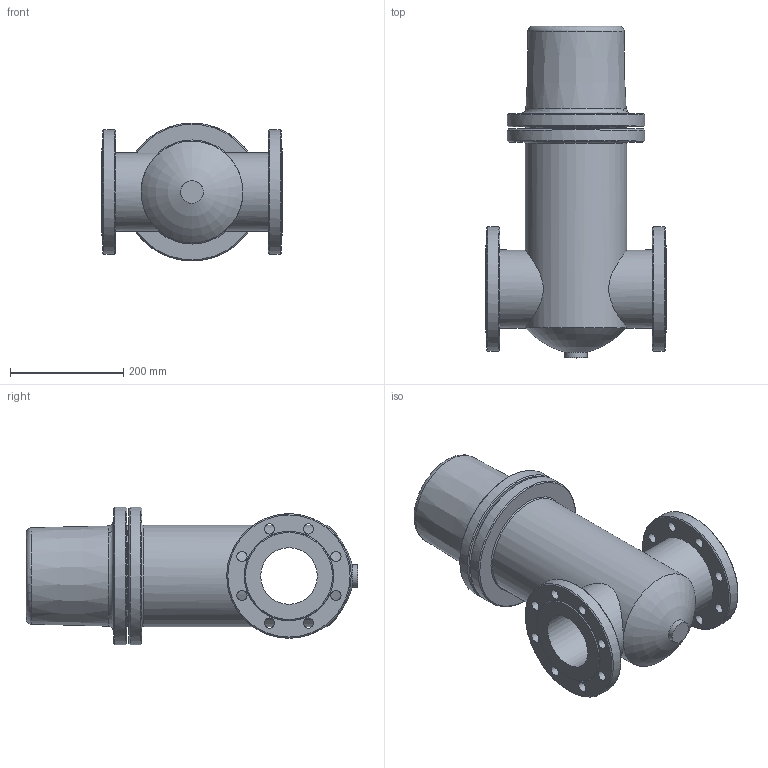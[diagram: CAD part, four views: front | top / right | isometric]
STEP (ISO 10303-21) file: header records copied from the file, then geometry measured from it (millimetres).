
FILE_DESCRIPTION(('STEP AP214'), '1');
FILE_NAME('婰錪襝 蜬諘 埼16-100', '', ('UNSPECIFIED'), ('UNSPECIFIED'), 'C3D Converter', 'C3D Toolkit', '');
FILE_SCHEMA(('AUTOMOTIVE_DESIGN { 1 0 10303 214 3 1 1}'));
Length unit declared in the file: millimetre
Bounding box: 320 x 587 x 244 mm (x, y, z)
Volume: 15671477 mm3; surface area: 707499.1 mm2
Topology: 1 solids, 1 shells, 56 faces, 124 edges, 78 vertices
Faces by surface type: cylinder 27, cone 14, plane 12, torus 3
Full cylindrical faces by diameter (mm): 18 x16, 40 x1, 100 x1, 138 x2, 158 x2, 180 x1, 220 x2, 244 x2
Entity records: 3524 total; most frequent: CARTESIAN_POINT 1871, DIRECTION 242, ORIENTED_EDGE 160, EDGE_LOOP 144, AXIS2_PLACEMENT_3D 121, EDGE_CURVE 80, VERTEX_POINT 78, FACE_OUTER_BOUND 76
